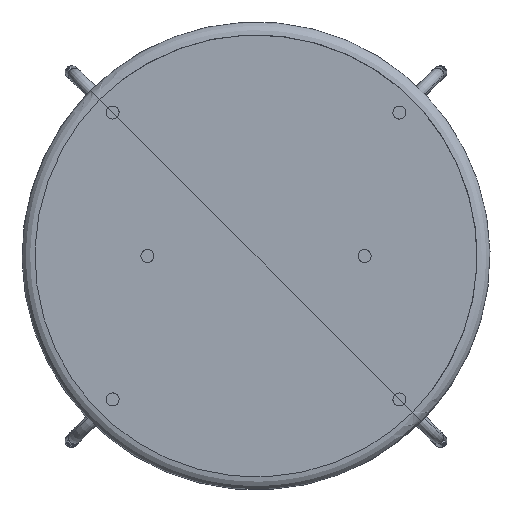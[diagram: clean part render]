
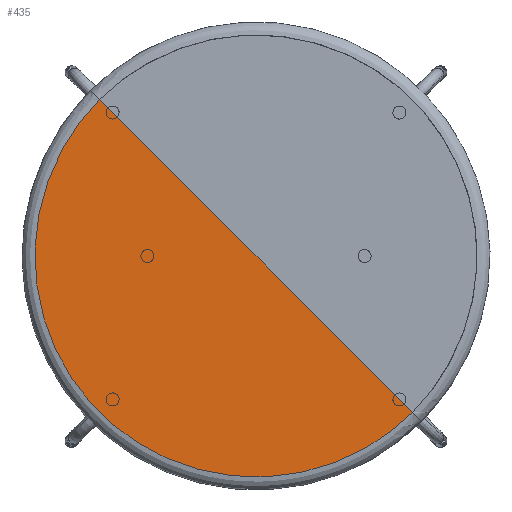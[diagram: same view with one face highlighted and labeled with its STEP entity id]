
A CAD part, top view. The second image highlights one B-rep face of the part: STEP entity #435.
In plain terms, the highlighted planar face has unit normal (0, 0, 1).
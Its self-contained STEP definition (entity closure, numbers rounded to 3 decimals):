
#126=B_SPLINE_CURVE_WITH_KNOTS('',1,(#6657,#6658),.UNSPECIFIED.,.F.,.F.,
(2,2),(0.,425.),.UNSPECIFIED.);
#127=B_SPLINE_CURVE_WITH_KNOTS('',1,(#6659,#6660),.UNSPECIFIED.,.F.,.F.,
(2,2),(0.,425.),.UNSPECIFIED.);
#209=PLANE('',#2603);
#435=ADVANCED_FACE('',(#625),#209,.T.);
#625=FACE_OUTER_BOUND('',#823,.T.);
#823=EDGE_LOOP('',(#1454,#1455,#1456));
#1454=ORIENTED_EDGE('',*,*,#1853,.T.);
#1455=ORIENTED_EDGE('',*,*,#1854,.T.);
#1456=ORIENTED_EDGE('',*,*,#1863,.T.);
#1853=EDGE_CURVE('',#2315,#2316,#126,.T.);
#1854=EDGE_CURVE('',#2316,#2317,#127,.T.);
#1863=EDGE_CURVE('',#2317,#2315,#2110,.T.);
#2110=(
BOUNDED_CURVE()
B_SPLINE_CURVE(2,(#6689,#6690,#6691,#6692,#6693),.UNSPECIFIED.,.F.,.F.)
B_SPLINE_CURVE_WITH_KNOTS((3,2,3),(0.,230.907,461.814),
 .UNSPECIFIED.)
CURVE()
GEOMETRIC_REPRESENTATION_ITEM()
RATIONAL_B_SPLINE_CURVE((1.,0.707,1.,0.707,1.))
REPRESENTATION_ITEM('')
);
#2315=VERTEX_POINT('',#6647);
#2316=VERTEX_POINT('',#6648);
#2317=VERTEX_POINT('',#6649);
#2603=AXIS2_PLACEMENT_3D('',#6563,#2701,$);
#2701=DIRECTION('',(0.,0.,1.));
#6563=CARTESIAN_POINT('',(-691.209,-691.209,737.806));
#6647=CARTESIAN_POINT('',(300.52,-300.52,737.806));
#6648=CARTESIAN_POINT('',(0.,0.,737.806));
#6649=CARTESIAN_POINT('',(-300.52,300.52,737.806));
#6657=CARTESIAN_POINT('',(300.52,-300.52,737.806));
#6658=CARTESIAN_POINT('',(0.,0.,737.806));
#6659=CARTESIAN_POINT('',(0.,0.,737.806));
#6660=CARTESIAN_POINT('',(-300.52,300.52,737.806));
#6689=CARTESIAN_POINT('',(-300.52,300.52,737.806));
#6690=CARTESIAN_POINT('',(-601.041,0.,737.806));
#6691=CARTESIAN_POINT('',(-300.52,-300.52,737.806));
#6692=CARTESIAN_POINT('',(0.,-601.041,737.806));
#6693=CARTESIAN_POINT('',(300.52,-300.52,737.806));
